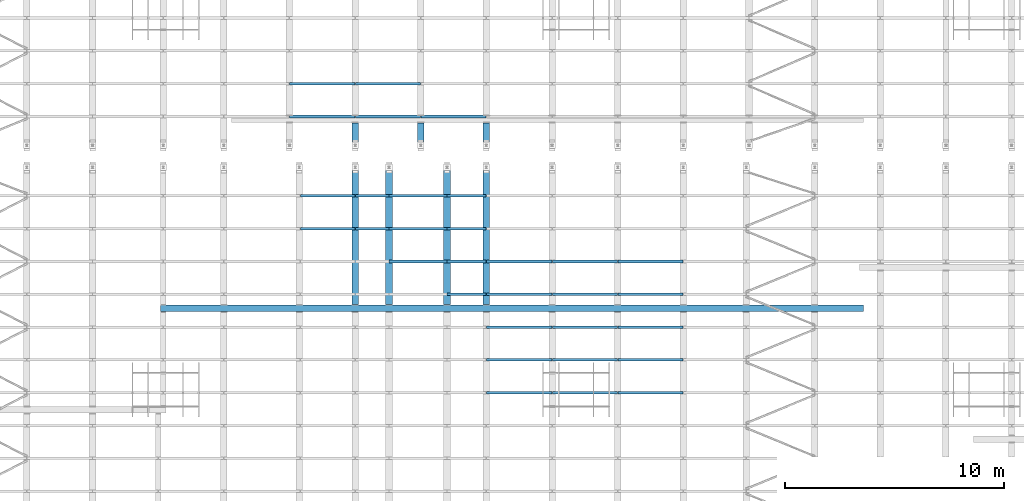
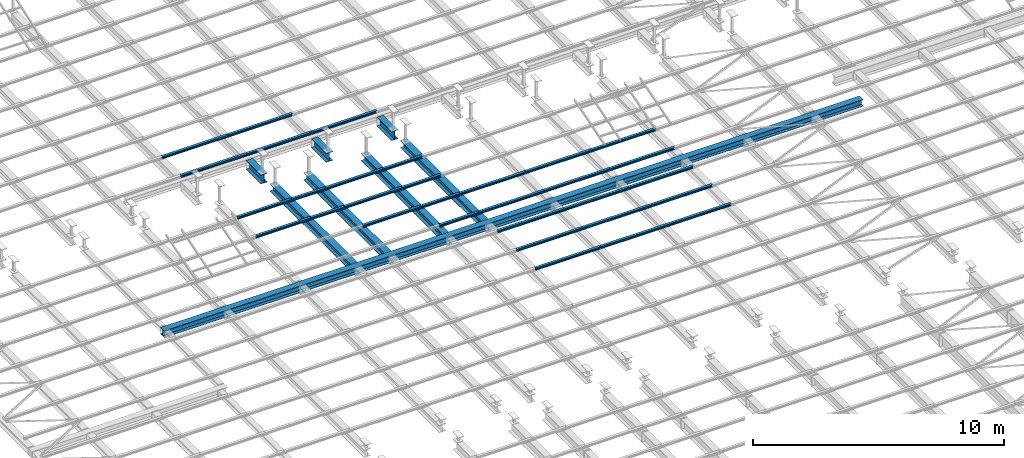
# One storey, part 56 of 139: 39 beams.
"""IFC2X3 building model written with IfcOpenShell, lengths in metres."""

from ifc_helpers import new_model, entity, si_unit, converted_unit, derived_unit, frame, origin, place, context, subcontext, project, spatial, polyline, outline, extrude, material, element, save


model = new_model("IFC2X3")

# Units and contexts
model_context = context("Model", 3, precision=1e-05, world=origin())
body_context = subcontext(model_context, "Body", "Model", "MODEL_VIEW")
ifc_project = project(units=[si_unit("LENGTHUNIT", "METRE"), si_unit("AREAUNIT", "SQUARE_METRE"), si_unit("VOLUMEUNIT", "CUBIC_METRE"), si_unit("MASSUNIT", "GRAM", prefix="KILO"), converted_unit("PLANEANGLEUNIT", "DEGREE", entity("IfcPlaneAngleMeasure", 0.0174532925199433), si_unit("PLANEANGLEUNIT", "RADIAN"), dimensions=[0, 0, 0, 0, 0, 0, 0]), derived_unit("THERMALTRANSMITTANCEUNIT", [(si_unit("POWERUNIT", "WATT"), 1), (si_unit("THERMODYNAMICTEMPERATUREUNIT", "KELVIN"), -1), (si_unit("LENGTHUNIT", "METRE"), -2)]), derived_unit("VOLUMETRICFLOWRATEUNIT", [(si_unit("LENGTHUNIT", "METRE"), 3), (converted_unit("TIMEUNIT", "hour", entity("IfcTimeMeasure", 3600.0), si_unit("TIMEUNIT", "SECOND"), dimensions=[0, 0, 1, 0, 0, 0, 0]), -1), (si_unit("LENGTHUNIT", "METRE"), -1)])], contexts=[model_context])

# Site, building, storey
site_placement = place(None, origin())
site = spatial("IfcSite", under=ifc_project, at=site_placement, Name="TWP_Speiseverteilzentrum SBW VZ II", CompositionType="ELEMENT")
building_placement = place(site_placement, origin())
building = spatial("IfcBuilding", under=site, at=building_placement, Name="Speiseverteilzentrum SBW VZ II", CompositionType="ELEMENT")
storey_placement = place(building_placement, frame((0.0, 0.0, 7.1307)))
storey = spatial("IfcBuildingStorey", under=building, at=storey_placement, Name="Wartung_FFB", CompositionType="ELEMENT", Elevation=7.1307)

# Beams
ifc_material_1 = material(Name="S235")
beam_1_placement = place(storey_placement, frame((19.1600000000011, 63.4574932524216, -0.355), z_axis=(0.0, 0.0, 1.0), x_axis=(-1.22464679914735e-16, -1.0, 0.0)))
element("IfcBeam", 1, at=beam_1_placement, inside=storey, material=ifc_material_1, Name="Stahlträger", context=body_context, shape_type="SweptSolid", body=[
    extrude(outline(polyline([(-0.15, 0.165), (-0.15, 0.1485), (-0.00474999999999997, 0.1485), (-0.00474999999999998, -0.1485), (-0.15, -0.1485), (-0.15, -0.165), (0.15, -0.165), (0.15, -0.1485), (0.00475000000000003, -0.1485), (0.00475000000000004, 0.1485), (0.15, 0.1485), (0.15, 0.165), (-0.15, 0.165)])), frame((0.0, 0.0, 0.0), z_axis=(0.0, 1.0, 0.0), x_axis=(-1.0, 0.0, 0.0)), (0.0, 0.0, 1.0), 32.1196046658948),
])
ifc_material_2 = material(Name="S235")
beam_2_placement = place(storey_placement, frame((28.0500000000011, 70.7522526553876, -0.41), z_axis=(0.0, 0.0, 1.0), x_axis=(1.0, -2.44929359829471e-16, 0.0)))
element("IfcBeam", 2, at=beam_2_placement, inside=storey, material=ifc_material_2, Name="Stahlträger", context=body_context, shape_type="SweptSolid", body=[
    extrude(outline(polyline([(-0.15, 0.22), (-0.15, 0.199), (-0.00574999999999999, 0.199), (-0.00575000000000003, -0.199), (-0.15, -0.199), (-0.15, -0.22), (0.15, -0.22), (0.15, -0.199), (0.00574999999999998, -0.199), (0.00575000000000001, 0.199), (0.15, 0.199), (0.15, 0.22), (-0.15, 0.22)])), frame((0.0, 0.0, 0.0), z_axis=(0.0, 1.0, 0.0), x_axis=(-1.0, 0.0, 0.0)), (0.0, 0.0, 1.0), 1.18224885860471),
])
ifc_material_3 = material(Name="S235")
beam_3_placement = place(storey_placement, frame((31.0500000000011, 70.7522526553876, -0.41), z_axis=(0.0, 0.0, 1.0), x_axis=(1.0, -2.44929359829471e-16, 0.0)))
element("IfcBeam", 3, at=beam_3_placement, inside=storey, material=ifc_material_3, Name="Stahlträger", context=body_context, shape_type="SweptSolid", body=[
    extrude(outline(polyline([(-0.15, 0.22), (-0.15, 0.199), (-0.00574999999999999, 0.199), (-0.00575000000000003, -0.199), (-0.15, -0.199), (-0.15, -0.22), (0.15, -0.22), (0.15, -0.199), (0.00574999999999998, -0.199), (0.00575000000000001, 0.199), (0.15, 0.199), (0.15, 0.22), (-0.15, 0.22)])), frame((0.0, 0.0, 0.0), z_axis=(0.0, 1.0, 0.0), x_axis=(-1.0, 0.0, 0.0)), (0.0, 0.0, 1.0), 1.18224885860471),
])
ifc_material_4 = material(Name="S235")
beam_4_placement = place(storey_placement, frame((34.0500000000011, 70.7522526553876, -0.41), z_axis=(0.0, 0.0, 1.0), x_axis=(1.0, -2.44929359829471e-16, 0.0)))
element("IfcBeam", 4, at=beam_4_placement, inside=storey, material=ifc_material_4, Name="Stahlträger", context=body_context, shape_type="SweptSolid", body=[
    extrude(outline(polyline([(-0.15, 0.22), (-0.15, 0.199), (-0.00574999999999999, 0.199), (-0.00575000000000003, -0.199), (-0.15, -0.199), (-0.15, -0.22), (0.15, -0.22), (0.15, -0.199), (0.00574999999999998, -0.199), (0.00575000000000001, 0.199), (0.15, 0.199), (0.15, 0.22), (-0.15, 0.22)])), frame((0.0, 0.0, 0.0), z_axis=(0.0, 1.0, 0.0), x_axis=(-1.0, 0.0, 0.0)), (0.0, 0.0, 1.0), 1.18224885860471),
])
ifc_material_5 = material(Name="S235")
beam_5_placement = place(storey_placement, frame((32.2500000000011, 70.0522526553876, -0.365), z_axis=(0.0, 0.0, 1.0), x_axis=(-1.0, 0.0, 0.0)))
element("IfcBeam", 5, at=beam_5_placement, inside=storey, material=ifc_material_5, Name="Stahlträger", context=body_context, shape_type="SweptSolid", body=[
    extrude(outline(polyline([(-0.15, 0.175), (-0.15, 0.1575), (-0.00500000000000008, 0.1575), (-0.0050000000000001, -0.1575), (-0.15, -0.1575), (-0.15, -0.175), (0.15, -0.175), (0.15, -0.1575), (0.0049999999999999, -0.1575), (0.00499999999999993, 0.1575), (0.15, 0.1575), (0.15, 0.175), (-0.15, 0.175)])), frame((0.0, 0.0, 0.0), z_axis=(0.0, 1.0, 0.0), x_axis=(-1.0, 0.0, 0.0)), (0.0, 0.0, 1.0), 6.41975940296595),
])
ifc_material_6 = material(Name="S235")
beam_6_placement = place(storey_placement, frame((34.0500000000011, 70.0522526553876, -0.365), z_axis=(0.0, 0.0, 1.0), x_axis=(-1.0, 0.0, 0.0)))
element("IfcBeam", 6, at=beam_6_placement, inside=storey, material=ifc_material_6, Name="Stahlträger", context=body_context, shape_type="SweptSolid", body=[
    extrude(outline(polyline([(-0.15, 0.175), (-0.15, 0.1575), (-0.00500000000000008, 0.1575), (-0.0050000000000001, -0.1575), (-0.15, -0.1575), (-0.15, -0.175), (0.15, -0.175), (0.15, -0.1575), (0.0049999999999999, -0.1575), (0.00499999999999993, 0.1575), (0.15, 0.1575), (0.15, 0.175), (-0.15, 0.175)])), frame((0.0, 0.0, 0.0), z_axis=(0.0, 1.0, 0.0), x_axis=(-1.0, 0.0, 0.0)), (0.0, 0.0, 1.0), 6.41975940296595),
])
ifc_material_7 = material(Name="S235")
beam_7_placement = place(storey_placement, frame((28.0500000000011, 70.0522526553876, -0.365), z_axis=(0.0, 0.0, 1.0), x_axis=(-1.0, 0.0, 0.0)))
element("IfcBeam", 7, at=beam_7_placement, inside=storey, material=ifc_material_7, Name="Stahlträger", context=body_context, shape_type="SweptSolid", body=[
    extrude(outline(polyline([(-0.15, 0.175), (-0.15, 0.1575), (-0.00500000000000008, 0.1575), (-0.0050000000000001, -0.1575), (-0.15, -0.1575), (-0.15, -0.175), (0.15, -0.175), (0.15, -0.1575), (0.0049999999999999, -0.1575), (0.00499999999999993, 0.1575), (0.15, 0.1575), (0.15, 0.175), (-0.15, 0.175)])), frame((0.0, 0.0, 0.0), z_axis=(0.0, 1.0, 0.0), x_axis=(-1.0, 0.0, 0.0)), (0.0, 0.0, 1.0), 6.41975940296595),
])
ifc_material_8 = material(Name="S235")
beam_8_placement = place(storey_placement, frame((29.6000000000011, 70.0522526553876, -0.365), z_axis=(0.0, 0.0, 1.0), x_axis=(-1.0, 0.0, 0.0)))
element("IfcBeam", 8, at=beam_8_placement, inside=storey, material=ifc_material_8, Name="Stahlträger", context=body_context, shape_type="SweptSolid", body=[
    extrude(outline(polyline([(-0.15, 0.175), (-0.15, 0.1575), (-0.00500000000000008, 0.1575), (-0.0050000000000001, -0.1575), (-0.15, -0.1575), (-0.15, -0.175), (0.15, -0.175), (0.15, -0.1575), (0.0049999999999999, -0.1575), (0.00499999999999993, 0.1575), (0.15, 0.1575), (0.15, 0.175), (-0.15, 0.175)])), frame((0.0, 0.0, 0.0), z_axis=(0.0, 1.0, 0.0), x_axis=(-1.0, 0.0, 0.0)), (0.0, 0.0, 1.0), 6.41975940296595),
])
ifc_material_9 = material(Name="S235")
beam_9_placement = place(storey_placement, frame((25.0600000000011, 73.7261263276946, -0.133), z_axis=(0.0, 0.0, 1.0), x_axis=(0.0, -1.0, 0.0)))
element("IfcBeam", 9, at=beam_9_placement, inside=storey, material=ifc_material_9, Name="Nebenträger", context=body_context, shape_type="SweptSolid", body=[
    extrude(outline(polyline([(-0.06, 0.0570000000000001), (-0.06, 0.0490000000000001), (-0.00249999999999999, 0.0490000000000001), (-0.0025, -0.0489999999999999), (-0.06, -0.0489999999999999), (-0.06, -0.0569999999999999), (0.06, -0.0569999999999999), (0.06, -0.0489999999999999), (0.0025, -0.0489999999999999), (0.00250000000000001, 0.0490000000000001), (0.06, 0.0490000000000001), (0.06, 0.0570000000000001), (-0.06, 0.0570000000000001)])), frame((0.0, 0.0, 0.0), z_axis=(0.0, 1.0, 0.0), x_axis=(-1.0, 0.0, 0.0)), (0.0, 0.0, 1.0), 2.98),
])
ifc_material_10 = material(Name="S235")
beam_10_placement = place(storey_placement, frame((28.0600000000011, 73.7261263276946, -0.133), z_axis=(0.0, 0.0, 1.0), x_axis=(0.0, -1.0, 0.0)))
element("IfcBeam", 10, at=beam_10_placement, inside=storey, material=ifc_material_10, Name="Nebenträger", context=body_context, shape_type="SweptSolid", body=[
    extrude(outline(polyline([(-0.06, 0.0570000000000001), (-0.06, 0.0490000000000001), (-0.00249999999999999, 0.0490000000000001), (-0.0025, -0.0489999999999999), (-0.06, -0.0489999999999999), (-0.06, -0.0569999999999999), (0.06, -0.0569999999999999), (0.06, -0.0489999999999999), (0.0025, -0.0489999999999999), (0.00250000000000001, 0.0490000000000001), (0.06, 0.0490000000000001), (0.06, 0.0570000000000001), (-0.06, 0.0570000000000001)])), frame((0.0, 0.0, 0.0), z_axis=(0.0, 1.0, 0.0), x_axis=(-1.0, 0.0, 0.0)), (0.0, 0.0, 1.0), 2.98),
])
ifc_material_11 = material(Name="S235")
beam_11_placement = place(storey_placement, frame((25.0600000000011, 72.2261263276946, -0.133), z_axis=(0.0, 0.0, 1.0), x_axis=(0.0, -1.0, 0.0)))
element("IfcBeam", 11, at=beam_11_placement, inside=storey, material=ifc_material_11, Name="Nebenträger", context=body_context, shape_type="SweptSolid", body=[
    extrude(outline(polyline([(-0.06, 0.0570000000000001), (-0.06, 0.0490000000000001), (-0.00249999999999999, 0.0490000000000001), (-0.0025, -0.0489999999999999), (-0.06, -0.0489999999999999), (-0.06, -0.0569999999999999), (0.06, -0.0569999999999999), (0.06, -0.0489999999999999), (0.0025, -0.0489999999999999), (0.00250000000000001, 0.0490000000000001), (0.06, 0.0490000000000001), (0.06, 0.0570000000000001), (-0.06, 0.0570000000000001)])), frame((0.0, 0.0, 0.0), z_axis=(0.0, 1.0, 0.0), x_axis=(-1.0, 0.0, 0.0)), (0.0, 0.0, 1.0), 2.98),
])
ifc_material_12 = material(Name="S235")
beam_12_placement = place(storey_placement, frame((28.0600000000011, 72.2261263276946, -0.133), z_axis=(0.0, 0.0, 1.0), x_axis=(0.0, -1.0, 0.0)))
element("IfcBeam", 12, at=beam_12_placement, inside=storey, material=ifc_material_12, Name="Nebenträger", context=body_context, shape_type="SweptSolid", body=[
    extrude(outline(polyline([(-0.06, 0.0570000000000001), (-0.06, 0.0490000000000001), (-0.00249999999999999, 0.0490000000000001), (-0.0025, -0.0489999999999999), (-0.06, -0.0489999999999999), (-0.06, -0.0569999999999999), (0.06, -0.0569999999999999), (0.06, -0.0489999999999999), (0.0025, -0.0489999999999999), (0.00250000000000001, 0.0490000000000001), (0.06, 0.0490000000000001), (0.06, 0.0570000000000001), (-0.06, 0.0570000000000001)])), frame((0.0, 0.0, 0.0), z_axis=(0.0, 1.0, 0.0), x_axis=(-1.0, 0.0, 0.0)), (0.0, 0.0, 1.0), 2.98),
])
ifc_material_13 = material(Name="S235")
beam_13_placement = place(storey_placement, frame((31.0600000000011, 72.2261263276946, -0.133), z_axis=(0.0, 0.0, 1.0), x_axis=(0.0, -1.0, 0.0)))
element("IfcBeam", 13, at=beam_13_placement, inside=storey, material=ifc_material_13, Name="Nebenträger", context=body_context, shape_type="SweptSolid", body=[
    extrude(outline(polyline([(-0.06, 0.0570000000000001), (-0.06, 0.0490000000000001), (-0.00249999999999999, 0.0490000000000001), (-0.0025, -0.0489999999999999), (-0.06, -0.0489999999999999), (-0.06, -0.0569999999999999), (0.06, -0.0569999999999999), (0.06, -0.0489999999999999), (0.0025, -0.0489999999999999), (0.00250000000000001, 0.0490000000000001), (0.06, 0.0490000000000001), (0.06, 0.0570000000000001), (-0.06, 0.0570000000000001)])), frame((0.0, 0.0, 0.0), z_axis=(0.0, 1.0, 0.0), x_axis=(-1.0, 0.0, 0.0)), (0.0, 0.0, 1.0), 2.98),
])
ifc_material_14 = material(Name="S235")
beam_14_placement = place(storey_placement, frame((34.0600000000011, 65.6011263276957, -0.133), z_axis=(0.0, 0.0, 1.0), x_axis=(0.0, -1.0, 0.0)))
element("IfcBeam", 14, at=beam_14_placement, inside=storey, material=ifc_material_14, Name="Nebenträger", context=body_context, shape_type="SweptSolid", body=[
    extrude(outline(polyline([(-0.06, 0.0570000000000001), (-0.06, 0.0490000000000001), (-0.00249999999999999, 0.0490000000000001), (-0.0025, -0.0489999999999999), (-0.06, -0.0489999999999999), (-0.06, -0.0569999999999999), (0.06, -0.0569999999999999), (0.06, -0.0489999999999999), (0.0025, -0.0489999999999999), (0.00250000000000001, 0.0490000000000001), (0.06, 0.0490000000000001), (0.06, 0.0570000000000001), (-0.06, 0.0570000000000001)])), frame((0.0, 0.0, 0.0), z_axis=(0.0, 1.0, 0.0), x_axis=(-1.0, 0.0, 0.0)), (0.0, 0.0, 1.0), 2.98),
])
ifc_material_15 = material(Name="S235")
beam_15_placement = place(storey_placement, frame((37.0600000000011, 65.6011263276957, -0.133), z_axis=(0.0, 0.0, 1.0), x_axis=(0.0, -1.0, 0.0)))
element("IfcBeam", 15, at=beam_15_placement, inside=storey, material=ifc_material_15, Name="Nebenträger", context=body_context, shape_type="SweptSolid", body=[
    extrude(outline(polyline([(-0.06, 0.0570000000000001), (-0.06, 0.0490000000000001), (-0.00249999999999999, 0.0490000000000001), (-0.0025, -0.0489999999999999), (-0.06, -0.0489999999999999), (-0.06, -0.0569999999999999), (0.06, -0.0569999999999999), (0.06, -0.0489999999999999), (0.0025, -0.0489999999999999), (0.00250000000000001, 0.0490000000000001), (0.06, 0.0490000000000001), (0.06, 0.0570000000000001), (-0.06, 0.0570000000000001)])), frame((0.0, 0.0, 0.0), z_axis=(0.0, 1.0, 0.0), x_axis=(-1.0, 0.0, 0.0)), (0.0, 0.0, 1.0), 2.98),
])
ifc_material_16 = material(Name="S235")
beam_16_placement = place(storey_placement, frame((40.0600000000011, 65.6011263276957, -0.133), z_axis=(0.0, 0.0, 1.0), x_axis=(0.0, -1.0, 0.0)))
element("IfcBeam", 16, at=beam_16_placement, inside=storey, material=ifc_material_16, Name="Nebenträger", context=body_context, shape_type="SweptSolid", body=[
    extrude(outline(polyline([(-0.06, 0.0570000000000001), (-0.06, 0.0490000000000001), (-0.00249999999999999, 0.0490000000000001), (-0.0025, -0.0489999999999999), (-0.06, -0.0489999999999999), (-0.06, -0.0569999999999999), (0.06, -0.0569999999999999), (0.06, -0.0489999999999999), (0.0025, -0.0489999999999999), (0.00250000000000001, 0.0490000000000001), (0.06, 0.0490000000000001), (0.06, 0.0570000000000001), (-0.06, 0.0570000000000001)])), frame((0.0, 0.0, 0.0), z_axis=(0.0, 1.0, 0.0), x_axis=(-1.0, 0.0, 0.0)), (0.0, 0.0, 1.0), 2.98),
])
ifc_material_17 = material(Name="S235")
beam_17_placement = place(storey_placement, frame((34.0600000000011, 64.1011263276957, -0.133), z_axis=(0.0, 0.0, 1.0), x_axis=(0.0, -1.0, 0.0)))
element("IfcBeam", 17, at=beam_17_placement, inside=storey, material=ifc_material_17, Name="Nebenträger", context=body_context, shape_type="SweptSolid", body=[
    extrude(outline(polyline([(-0.06, 0.0570000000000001), (-0.06, 0.0490000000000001), (-0.00249999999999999, 0.0490000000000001), (-0.0025, -0.0489999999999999), (-0.06, -0.0489999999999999), (-0.06, -0.0569999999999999), (0.06, -0.0569999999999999), (0.06, -0.0489999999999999), (0.0025, -0.0489999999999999), (0.00250000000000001, 0.0490000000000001), (0.06, 0.0490000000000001), (0.06, 0.0570000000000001), (-0.06, 0.0570000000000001)])), frame((0.0, 0.0, 0.0), z_axis=(0.0, 1.0, 0.0), x_axis=(-1.0, 0.0, 0.0)), (0.0, 0.0, 1.0), 2.98),
])
ifc_material_18 = material(Name="S235")
beam_18_placement = place(storey_placement, frame((37.0600000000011, 64.1011263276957, -0.133), z_axis=(0.0, 0.0, 1.0), x_axis=(0.0, -1.0, 0.0)))
element("IfcBeam", 18, at=beam_18_placement, inside=storey, material=ifc_material_18, Name="Nebenträger", context=body_context, shape_type="SweptSolid", body=[
    extrude(outline(polyline([(-0.06, 0.0570000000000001), (-0.06, 0.0490000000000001), (-0.00249999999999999, 0.0490000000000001), (-0.0025, -0.0489999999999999), (-0.06, -0.0489999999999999), (-0.06, -0.0569999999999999), (0.06, -0.0569999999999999), (0.06, -0.0489999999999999), (0.0025, -0.0489999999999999), (0.00250000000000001, 0.0490000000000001), (0.06, 0.0490000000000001), (0.06, 0.0570000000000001), (-0.06, 0.0570000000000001)])), frame((0.0, 0.0, 0.0), z_axis=(0.0, 1.0, 0.0), x_axis=(-1.0, 0.0, 0.0)), (0.0, 0.0, 1.0), 2.98),
])
ifc_material_19 = material(Name="S235")
beam_19_placement = place(storey_placement, frame((40.0600000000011, 64.1011263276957, -0.133), z_axis=(0.0, 0.0, 1.0), x_axis=(0.0, -1.0, 0.0)))
element("IfcBeam", 19, at=beam_19_placement, inside=storey, material=ifc_material_19, Name="Nebenträger", context=body_context, shape_type="SweptSolid", body=[
    extrude(outline(polyline([(-0.06, 0.0570000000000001), (-0.06, 0.0490000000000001), (-0.00249999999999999, 0.0490000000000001), (-0.0025, -0.0489999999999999), (-0.06, -0.0489999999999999), (-0.06, -0.0569999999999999), (0.06, -0.0569999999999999), (0.06, -0.0489999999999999), (0.0025, -0.0489999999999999), (0.00250000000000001, 0.0490000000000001), (0.06, 0.0490000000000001), (0.06, 0.0570000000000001), (-0.06, 0.0570000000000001)])), frame((0.0, 0.0, 0.0), z_axis=(0.0, 1.0, 0.0), x_axis=(-1.0, 0.0, 0.0)), (0.0, 0.0, 1.0), 2.98),
])
ifc_material_20 = material(Name="S235")
beam_20_placement = place(storey_placement, frame((34.0600000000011, 62.6011263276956, -0.133), z_axis=(0.0, 0.0, 1.0), x_axis=(0.0, -1.0, 0.0)))
element("IfcBeam", 20, at=beam_20_placement, inside=storey, material=ifc_material_20, Name="Nebenträger", context=body_context, shape_type="SweptSolid", body=[
    extrude(outline(polyline([(-0.06, 0.0570000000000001), (-0.06, 0.0490000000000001), (-0.00249999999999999, 0.0490000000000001), (-0.0025, -0.0489999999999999), (-0.06, -0.0489999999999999), (-0.06, -0.0569999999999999), (0.06, -0.0569999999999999), (0.06, -0.0489999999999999), (0.0025, -0.0489999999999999), (0.00250000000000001, 0.0490000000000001), (0.06, 0.0490000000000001), (0.06, 0.0570000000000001), (-0.06, 0.0570000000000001)])), frame((0.0, 0.0, 0.0), z_axis=(0.0, 1.0, 0.0), x_axis=(-1.0, 0.0, 0.0)), (0.0, 0.0, 1.0), 2.98),
])
ifc_material_21 = material(Name="S235")
beam_21_placement = place(storey_placement, frame((37.0600000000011, 62.6011263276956, -0.133), z_axis=(0.0, 0.0, 1.0), x_axis=(0.0, -1.0, 0.0)))
element("IfcBeam", 21, at=beam_21_placement, inside=storey, material=ifc_material_21, Name="Nebenträger", context=body_context, shape_type="SweptSolid", body=[
    extrude(outline(polyline([(-0.06, 0.0570000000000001), (-0.06, 0.0490000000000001), (-0.00249999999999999, 0.0490000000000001), (-0.0025, -0.0489999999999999), (-0.06, -0.0489999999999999), (-0.06, -0.0569999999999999), (0.06, -0.0569999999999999), (0.06, -0.0489999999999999), (0.0025, -0.0489999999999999), (0.00250000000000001, 0.0490000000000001), (0.06, 0.0490000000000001), (0.06, 0.0570000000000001), (-0.06, 0.0570000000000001)])), frame((0.0, 0.0, 0.0), z_axis=(0.0, 1.0, 0.0), x_axis=(-1.0, 0.0, 0.0)), (0.0, 0.0, 1.0), 2.98),
])
ifc_material_22 = material(Name="S235")
beam_22_placement = place(storey_placement, frame((40.0600000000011, 62.6011263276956, -0.133), z_axis=(0.0, 0.0, 1.0), x_axis=(0.0, -1.0, 0.0)))
element("IfcBeam", 22, at=beam_22_placement, inside=storey, material=ifc_material_22, Name="Nebenträger", context=body_context, shape_type="SweptSolid", body=[
    extrude(outline(polyline([(-0.06, 0.0570000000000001), (-0.06, 0.0490000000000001), (-0.00249999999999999, 0.0490000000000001), (-0.0025, -0.0489999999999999), (-0.06, -0.0489999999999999), (-0.06, -0.0569999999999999), (0.06, -0.0569999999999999), (0.06, -0.0489999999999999), (0.0025, -0.0489999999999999), (0.00250000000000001, 0.0490000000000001), (0.06, 0.0490000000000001), (0.06, 0.0570000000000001), (-0.06, 0.0570000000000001)])), frame((0.0, 0.0, 0.0), z_axis=(0.0, 1.0, 0.0), x_axis=(-1.0, 0.0, 0.0)), (0.0, 0.0, 1.0), 2.98),
])
ifc_material_23 = material(Name="S235")
beam_23_placement = place(storey_placement, frame((34.0600000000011, 61.1011263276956, -0.133), z_axis=(0.0, 0.0, 1.0), x_axis=(0.0, -1.0, 0.0)))
element("IfcBeam", 23, at=beam_23_placement, inside=storey, material=ifc_material_23, Name="Nebenträger", context=body_context, shape_type="SweptSolid", body=[
    extrude(outline(polyline([(-0.06, 0.0570000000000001), (-0.06, 0.0490000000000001), (-0.00249999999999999, 0.0490000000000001), (-0.0025, -0.0489999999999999), (-0.06, -0.0489999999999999), (-0.06, -0.0569999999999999), (0.06, -0.0569999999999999), (0.06, -0.0489999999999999), (0.0025, -0.0489999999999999), (0.00250000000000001, 0.0490000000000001), (0.06, 0.0490000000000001), (0.06, 0.0570000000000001), (-0.06, 0.0570000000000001)])), frame((0.0, 0.0, 0.0), z_axis=(0.0, 1.0, 0.0), x_axis=(-1.0, 0.0, 0.0)), (0.0, 0.0, 1.0), 2.98),
])
ifc_material_24 = material(Name="S235")
beam_24_placement = place(storey_placement, frame((37.0600000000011, 61.1011263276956, -0.133), z_axis=(0.0, 0.0, 1.0), x_axis=(0.0, -1.0, 0.0)))
element("IfcBeam", 24, at=beam_24_placement, inside=storey, material=ifc_material_24, Name="Nebenträger", context=body_context, shape_type="SweptSolid", body=[
    extrude(outline(polyline([(-0.06, 0.0570000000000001), (-0.06, 0.0490000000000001), (-0.00249999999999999, 0.0490000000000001), (-0.0025, -0.0489999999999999), (-0.06, -0.0489999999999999), (-0.06, -0.0569999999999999), (0.06, -0.0569999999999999), (0.06, -0.0489999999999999), (0.0025, -0.0489999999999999), (0.00250000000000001, 0.0490000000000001), (0.06, 0.0490000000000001), (0.06, 0.0570000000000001), (-0.06, 0.0570000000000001)])), frame((0.0, 0.0, 0.0), z_axis=(0.0, 1.0, 0.0), x_axis=(-1.0, 0.0, 0.0)), (0.0, 0.0, 1.0), 2.98),
])
ifc_material_25 = material(Name="S235")
beam_25_placement = place(storey_placement, frame((40.0600000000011, 61.1011263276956, -0.133), z_axis=(0.0, 0.0, 1.0), x_axis=(0.0, -1.0, 0.0)))
element("IfcBeam", 25, at=beam_25_placement, inside=storey, material=ifc_material_25, Name="Nebenträger", context=body_context, shape_type="SweptSolid", body=[
    extrude(outline(polyline([(-0.06, 0.0570000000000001), (-0.06, 0.0490000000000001), (-0.00249999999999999, 0.0490000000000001), (-0.0025, -0.0489999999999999), (-0.06, -0.0489999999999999), (-0.06, -0.0569999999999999), (0.06, -0.0569999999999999), (0.06, -0.0489999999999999), (0.0025, -0.0489999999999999), (0.00250000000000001, 0.0490000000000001), (0.06, 0.0490000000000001), (0.06, 0.0570000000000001), (-0.06, 0.0570000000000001)])), frame((0.0, 0.0, 0.0), z_axis=(0.0, 1.0, 0.0), x_axis=(-1.0, 0.0, 0.0)), (0.0, 0.0, 1.0), 2.98),
])
ifc_material_26 = material(Name="S235")
beam_26_placement = place(storey_placement, frame((34.0600000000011, 59.6011263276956, -0.133), z_axis=(0.0, 0.0, 1.0), x_axis=(0.0, -1.0, 0.0)))
element("IfcBeam", 26, at=beam_26_placement, inside=storey, material=ifc_material_26, Name="Nebenträger", context=body_context, shape_type="SweptSolid", body=[
    extrude(outline(polyline([(-0.06, 0.0570000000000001), (-0.06, 0.0490000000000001), (-0.00249999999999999, 0.0490000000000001), (-0.0025, -0.0489999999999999), (-0.06, -0.0489999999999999), (-0.06, -0.0569999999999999), (0.06, -0.0569999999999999), (0.06, -0.0489999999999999), (0.0025, -0.0489999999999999), (0.00250000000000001, 0.0490000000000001), (0.06, 0.0490000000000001), (0.06, 0.0570000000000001), (-0.06, 0.0570000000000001)])), frame((0.0, 0.0, 0.0), z_axis=(0.0, 1.0, 0.0), x_axis=(-1.0, 0.0, 0.0)), (0.0, 0.0, 1.0), 2.98),
])
ifc_material_27 = material(Name="S235")
beam_27_placement = place(storey_placement, frame((37.0600000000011, 59.6011263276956, -0.133), z_axis=(0.0, 0.0, 1.0), x_axis=(0.0, -1.0, 0.0)))
element("IfcBeam", 27, at=beam_27_placement, inside=storey, material=ifc_material_27, Name="Nebenträger", context=body_context, shape_type="SweptSolid", body=[
    extrude(outline(polyline([(-0.06, 0.0570000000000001), (-0.06, 0.0490000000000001), (-0.00249999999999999, 0.0490000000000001), (-0.0025, -0.0489999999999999), (-0.06, -0.0489999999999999), (-0.06, -0.0569999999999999), (0.06, -0.0569999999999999), (0.06, -0.0489999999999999), (0.0025, -0.0489999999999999), (0.00250000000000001, 0.0490000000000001), (0.06, 0.0490000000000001), (0.06, 0.0570000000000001), (-0.06, 0.0570000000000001)])), frame((0.0, 0.0, 0.0), z_axis=(0.0, 1.0, 0.0), x_axis=(-1.0, 0.0, 0.0)), (0.0, 0.0, 1.0), 2.98),
])
ifc_material_28 = material(Name="S235")
beam_28_placement = place(storey_placement, frame((40.0600000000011, 59.6011263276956, -0.133), z_axis=(0.0, 0.0, 1.0), x_axis=(0.0, -1.0, 0.0)))
element("IfcBeam", 28, at=beam_28_placement, inside=storey, material=ifc_material_28, Name="Nebenträger", context=body_context, shape_type="SweptSolid", body=[
    extrude(outline(polyline([(-0.06, 0.0570000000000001), (-0.06, 0.0490000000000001), (-0.00249999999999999, 0.0490000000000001), (-0.0025, -0.0489999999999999), (-0.06, -0.0489999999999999), (-0.06, -0.0569999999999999), (0.06, -0.0569999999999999), (0.06, -0.0489999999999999), (0.0025, -0.0489999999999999), (0.00250000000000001, 0.0490000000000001), (0.06, 0.0490000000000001), (0.06, 0.0570000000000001), (-0.06, 0.0570000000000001)])), frame((0.0, 0.0, 0.0), z_axis=(0.0, 1.0, 0.0), x_axis=(-1.0, 0.0, 0.0)), (0.0, 0.0, 1.0), 2.98),
])
ifc_material_29 = material(Name="S235")
beam_29_placement = place(storey_placement, frame((25.5600000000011, 68.6011263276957, -0.133), z_axis=(0.0, 0.0, 1.0), x_axis=(0.0, -1.0, 0.0)))
element("IfcBeam", 29, at=beam_29_placement, inside=storey, material=ifc_material_29, Name="Nebenträger", context=body_context, shape_type="SweptSolid", body=[
    extrude(outline(polyline([(-0.06, 0.0570000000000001), (-0.06, 0.0490000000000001), (-0.00249999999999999, 0.0490000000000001), (-0.0025, -0.0489999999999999), (-0.06, -0.0489999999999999), (-0.06, -0.0569999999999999), (0.06, -0.0569999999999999), (0.06, -0.0489999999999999), (0.0025, -0.0489999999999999), (0.00250000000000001, 0.0490000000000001), (0.06, 0.0490000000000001), (0.06, 0.0570000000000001), (-0.06, 0.0570000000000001)])), frame((0.0, 0.0, 0.0), z_axis=(0.0, 1.0, 0.0), x_axis=(-1.0, 0.0, 0.0)), (0.0, 0.0, 1.0), 2.48),
])
ifc_material_30 = material(Name="S235")
beam_30_placement = place(storey_placement, frame((25.5600000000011, 67.1011263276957, -0.133), z_axis=(0.0, 0.0, 1.0), x_axis=(0.0, -1.0, 0.0)))
element("IfcBeam", 30, at=beam_30_placement, inside=storey, material=ifc_material_30, Name="Nebenträger", context=body_context, shape_type="SweptSolid", body=[
    extrude(outline(polyline([(-0.06, 0.0570000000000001), (-0.06, 0.0490000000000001), (-0.00249999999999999, 0.0490000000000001), (-0.0025, -0.0489999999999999), (-0.06, -0.0489999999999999), (-0.06, -0.0569999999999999), (0.06, -0.0569999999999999), (0.06, -0.0489999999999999), (0.0025, -0.0489999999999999), (0.00250000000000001, 0.0490000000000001), (0.06, 0.0490000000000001), (0.06, 0.0570000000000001), (-0.06, 0.0570000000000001)])), frame((0.0, 0.0, 0.0), z_axis=(0.0, 1.0, 0.0), x_axis=(-1.0, 0.0, 0.0)), (0.0, 0.0, 1.0), 2.48),
])
ifc_material_31 = material(Name="S235")
beam_31_placement = place(storey_placement, frame((28.0600000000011, 68.6011263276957, -0.133), z_axis=(0.0, 0.0, 1.0), x_axis=(0.0, -1.0, 0.0)))
element("IfcBeam", 31, at=beam_31_placement, inside=storey, material=ifc_material_31, Name="Nebenträger", context=body_context, shape_type="SweptSolid", body=[
    extrude(outline(polyline([(-0.06, 0.0570000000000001), (-0.06, 0.0490000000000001), (-0.00249999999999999, 0.0490000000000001), (-0.0025, -0.0489999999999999), (-0.06, -0.0489999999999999), (-0.06, -0.0569999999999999), (0.06, -0.0569999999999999), (0.06, -0.0489999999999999), (0.0025, -0.0489999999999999), (0.00250000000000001, 0.0490000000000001), (0.06, 0.0490000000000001), (0.06, 0.0570000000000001), (-0.06, 0.0570000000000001)])), frame((0.0, 0.0, 0.0), z_axis=(0.0, 1.0, 0.0), x_axis=(-1.0, 0.0, 0.0)), (0.0, 0.0, 1.0), 1.52999999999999),
])
ifc_material_32 = material(Name="S235")
beam_32_placement = place(storey_placement, frame((28.0600000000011, 67.1011263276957, -0.133), z_axis=(0.0, 0.0, 1.0), x_axis=(0.0, -1.0, 0.0)))
element("IfcBeam", 32, at=beam_32_placement, inside=storey, material=ifc_material_32, Name="Nebenträger", context=body_context, shape_type="SweptSolid", body=[
    extrude(outline(polyline([(-0.06, 0.0570000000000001), (-0.06, 0.0490000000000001), (-0.00249999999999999, 0.0490000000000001), (-0.0025, -0.0489999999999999), (-0.06, -0.0489999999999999), (-0.06, -0.0569999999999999), (0.06, -0.0569999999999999), (0.06, -0.0489999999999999), (0.0025, -0.0489999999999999), (0.00250000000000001, 0.0490000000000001), (0.06, 0.0490000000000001), (0.06, 0.0570000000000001), (-0.06, 0.0570000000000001)])), frame((0.0, 0.0, 0.0), z_axis=(0.0, 1.0, 0.0), x_axis=(-1.0, 0.0, 0.0)), (0.0, 0.0, 1.0), 1.52999999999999),
])
ifc_material_33 = material(Name="S235")
beam_33_placement = place(storey_placement, frame((29.6100000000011, 68.6011263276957, -0.133), z_axis=(0.0, 0.0, 1.0), x_axis=(0.0, -1.0, 0.0)))
element("IfcBeam", 33, at=beam_33_placement, inside=storey, material=ifc_material_33, Name="Nebenträger", context=body_context, shape_type="SweptSolid", body=[
    extrude(outline(polyline([(-0.06, 0.0570000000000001), (-0.06, 0.0490000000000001), (-0.00249999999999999, 0.0490000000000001), (-0.0025, -0.0489999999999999), (-0.06, -0.0489999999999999), (-0.06, -0.0569999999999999), (0.06, -0.0569999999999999), (0.06, -0.0489999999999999), (0.0025, -0.0489999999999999), (0.00250000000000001, 0.0490000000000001), (0.06, 0.0490000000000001), (0.06, 0.0570000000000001), (-0.06, 0.0570000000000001)])), frame((0.0, 0.0, 0.0), z_axis=(0.0, 1.0, 0.0), x_axis=(-1.0, 0.0, 0.0)), (0.0, 0.0, 1.0), 2.63000000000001),
])
ifc_material_34 = material(Name="S235")
beam_34_placement = place(storey_placement, frame((29.6100000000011, 67.1011263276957, -0.133), z_axis=(0.0, 0.0, 1.0), x_axis=(0.0, -1.0, 0.0)))
element("IfcBeam", 34, at=beam_34_placement, inside=storey, material=ifc_material_34, Name="Nebenträger", context=body_context, shape_type="SweptSolid", body=[
    extrude(outline(polyline([(-0.06, 0.0570000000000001), (-0.06, 0.0490000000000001), (-0.00249999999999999, 0.0490000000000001), (-0.0025, -0.0489999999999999), (-0.06, -0.0489999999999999), (-0.06, -0.0569999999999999), (0.06, -0.0569999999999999), (0.06, -0.0489999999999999), (0.0025, -0.0489999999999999), (0.00250000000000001, 0.0490000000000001), (0.06, 0.0490000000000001), (0.06, 0.0570000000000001), (-0.06, 0.0570000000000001)])), frame((0.0, 0.0, 0.0), z_axis=(0.0, 1.0, 0.0), x_axis=(-1.0, 0.0, 0.0)), (0.0, 0.0, 1.0), 2.63000000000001),
])
ifc_material_35 = material(Name="S235")
beam_35_placement = place(storey_placement, frame((29.6100000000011, 65.6011263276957, -0.133), z_axis=(0.0, 0.0, 1.0), x_axis=(0.0, -1.0, 0.0)))
element("IfcBeam", 35, at=beam_35_placement, inside=storey, material=ifc_material_35, Name="Nebenträger", context=body_context, shape_type="SweptSolid", body=[
    extrude(outline(polyline([(-0.06, 0.0570000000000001), (-0.06, 0.0490000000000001), (-0.00249999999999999, 0.0490000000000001), (-0.0025, -0.0489999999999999), (-0.06, -0.0489999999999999), (-0.06, -0.0569999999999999), (0.06, -0.0569999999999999), (0.06, -0.0489999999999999), (0.0025, -0.0489999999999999), (0.00250000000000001, 0.0490000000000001), (0.06, 0.0490000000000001), (0.06, 0.0570000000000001), (-0.06, 0.0570000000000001)])), frame((0.0, 0.0, 0.0), z_axis=(0.0, 1.0, 0.0), x_axis=(-1.0, 0.0, 0.0)), (0.0, 0.0, 1.0), 2.63000000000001),
])
ifc_material_36 = material(Name="S235")
beam_36_placement = place(storey_placement, frame((32.2600000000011, 68.6011263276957, -0.133), z_axis=(0.0, 0.0, 1.0), x_axis=(0.0, -1.0, 0.0)))
element("IfcBeam", 36, at=beam_36_placement, inside=storey, material=ifc_material_36, Name="Nebenträger", context=body_context, shape_type="SweptSolid", body=[
    extrude(outline(polyline([(-0.06, 0.0570000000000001), (-0.06, 0.0490000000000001), (-0.00249999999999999, 0.0490000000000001), (-0.0025, -0.0489999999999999), (-0.06, -0.0489999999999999), (-0.06, -0.0569999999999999), (0.06, -0.0569999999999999), (0.06, -0.0489999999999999), (0.0025, -0.0489999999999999), (0.00250000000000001, 0.0490000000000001), (0.06, 0.0490000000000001), (0.06, 0.0570000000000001), (-0.06, 0.0570000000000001)])), frame((0.0, 0.0, 0.0), z_axis=(0.0, 1.0, 0.0), x_axis=(-1.0, 0.0, 0.0)), (0.0, 0.0, 1.0), 1.78),
])
ifc_material_37 = material(Name="S235")
beam_37_placement = place(storey_placement, frame((32.2600000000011, 67.1011263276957, -0.133), z_axis=(0.0, 0.0, 1.0), x_axis=(0.0, -1.0, 0.0)))
element("IfcBeam", 37, at=beam_37_placement, inside=storey, material=ifc_material_37, Name="Nebenträger", context=body_context, shape_type="SweptSolid", body=[
    extrude(outline(polyline([(-0.06, 0.0570000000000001), (-0.06, 0.0490000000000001), (-0.00249999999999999, 0.0490000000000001), (-0.0025, -0.0489999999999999), (-0.06, -0.0489999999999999), (-0.06, -0.0569999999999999), (0.06, -0.0569999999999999), (0.06, -0.0489999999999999), (0.0025, -0.0489999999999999), (0.00250000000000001, 0.0490000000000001), (0.06, 0.0490000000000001), (0.06, 0.0570000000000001), (-0.06, 0.0570000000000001)])), frame((0.0, 0.0, 0.0), z_axis=(0.0, 1.0, 0.0), x_axis=(-1.0, 0.0, 0.0)), (0.0, 0.0, 1.0), 1.78),
])
ifc_material_38 = material(Name="S235")
beam_38_placement = place(storey_placement, frame((32.2600000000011, 65.6011263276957, -0.133), z_axis=(0.0, 0.0, 1.0), x_axis=(0.0, -1.0, 0.0)))
element("IfcBeam", 38, at=beam_38_placement, inside=storey, material=ifc_material_38, Name="Nebenträger", context=body_context, shape_type="SweptSolid", body=[
    extrude(outline(polyline([(-0.06, 0.0570000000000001), (-0.06, 0.0490000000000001), (-0.00249999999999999, 0.0490000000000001), (-0.0025, -0.0489999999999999), (-0.06, -0.0489999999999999), (-0.06, -0.0569999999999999), (0.06, -0.0569999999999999), (0.06, -0.0489999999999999), (0.0025, -0.0489999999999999), (0.00250000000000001, 0.0490000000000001), (0.06, 0.0490000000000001), (0.06, 0.0570000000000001), (-0.06, 0.0570000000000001)])), frame((0.0, 0.0, 0.0), z_axis=(0.0, 1.0, 0.0), x_axis=(-1.0, 0.0, 0.0)), (0.0, 0.0, 1.0), 1.78),
])
ifc_material_39 = material(Name="S235")
beam_39_placement = place(storey_placement, frame((32.2600000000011, 64.1011263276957, -0.133), z_axis=(0.0, 0.0, 1.0), x_axis=(0.0, -1.0, 0.0)))
element("IfcBeam", 39, at=beam_39_placement, inside=storey, material=ifc_material_39, Name="Nebenträger", context=body_context, shape_type="SweptSolid", body=[
    extrude(outline(polyline([(-0.06, 0.0570000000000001), (-0.06, 0.0490000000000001), (-0.00249999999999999, 0.0490000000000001), (-0.0025, -0.0489999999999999), (-0.06, -0.0489999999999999), (-0.06, -0.0569999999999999), (0.06, -0.0569999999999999), (0.06, -0.0489999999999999), (0.0025, -0.0489999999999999), (0.00250000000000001, 0.0490000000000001), (0.06, 0.0490000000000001), (0.06, 0.0570000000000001), (-0.06, 0.0570000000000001)])), frame((0.0, 0.0, 0.0), z_axis=(0.0, 1.0, 0.0), x_axis=(-1.0, 0.0, 0.0)), (0.0, 0.0, 1.0), 1.78),
])

save(model, "model.ifc")
